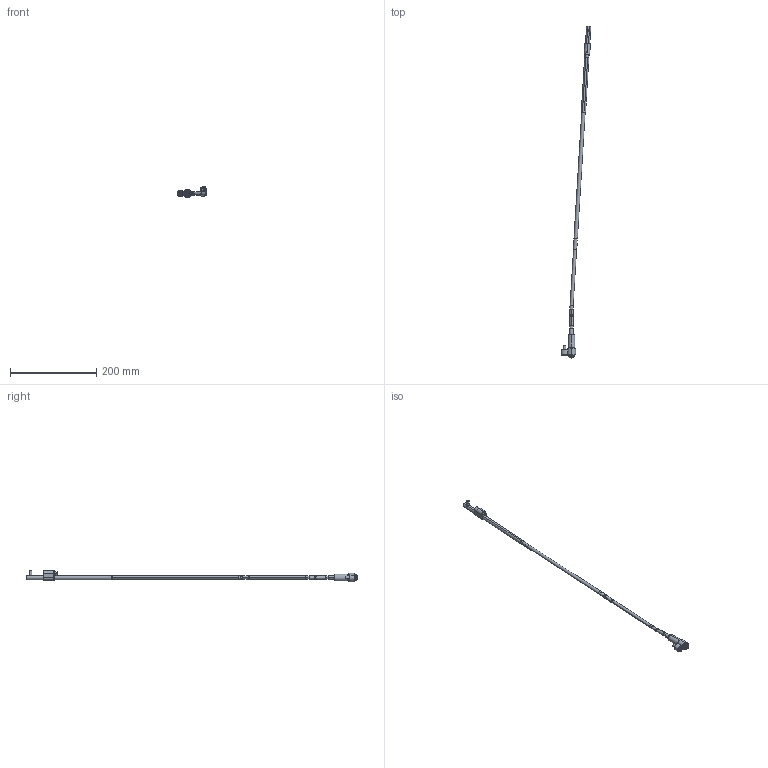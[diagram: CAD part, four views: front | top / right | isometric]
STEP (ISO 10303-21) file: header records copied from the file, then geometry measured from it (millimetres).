
FILE_DESCRIPTION (( 'STEP AP214' ), '1' );
FILE_NAME ('WL080125-EJE 3,5°.STEP', '2021-03-19T15:29:13', ( '' ), ( '' ), 'SwSTEP 2.0', 'SolidWorks 2019', '' );
FILE_SCHEMA (( 'AUTOMOTIVE_DESIGN' ));
Length unit declared in the file: millimetre
Products named in the file (17): 1DIN912616_DIN 912 M6 x 16 --- 16C; Web-WL08-A1; 1DIN912545_DIN 912 M5 x 50 --- 50C; Web-WL08-A2; WL080125-EJE 3,5°; Web-WP08-1; WL080100-C; WL080100-B1_WL0800FF-1; WL080100-B_WL0800FF; WL080100-D; Web-WL08-A3; 9DR2206-TOR; WL080100-E; Web-WL08-F01; 3IMAN4X2-150_con sello; Web-WL08-F00.SLDPRT; Web-WL08XX-A7_ON-WL080125-3,5
Assembly tree (16 placements, depth 3):
  WL080125-EJE 3,5°
    Web-WP08-1
    Web-WL08XX-A7_ON-WL080125-3,5
    Web-WL08-A3
    Web-WL08-A2
    Web-WL08-A1
    WL080100-D
    WL080100-C
    WL080100-B_WL0800FF
      WL080100-B1_WL0800FF-1
      3IMAN4X2-150_con sello
    WL080100-E
    9DR2206-TOR
    Web-WL08-F00.SLDPRT
      Web-WL08-F01
      1DIN912545_DIN 912 M5 x 50 --- 50C
      1DIN912616_DIN 912 M6 x 16 --- 16C
Bounding box: 68.82 x 771.06 x 26.9 mm (x, y, z)
Volume: 58701.4 mm3; surface area: 34415.9 mm2
Topology: 15 solids, 15 shells, 424 faces, 888 edges, 516 vertices
Faces by surface type: plane 132, cylinder 128, cone 116, torus 48
Entity records: 13492 total; most frequent: DIRECTION 2218, CARTESIAN_POINT 2045, ORIENTED_EDGE 1756, AXIS2_PLACEMENT_3D 921, EDGE_CURVE 878, VERTEX_POINT 516, CIRCLE 476, EDGE_LOOP 468
